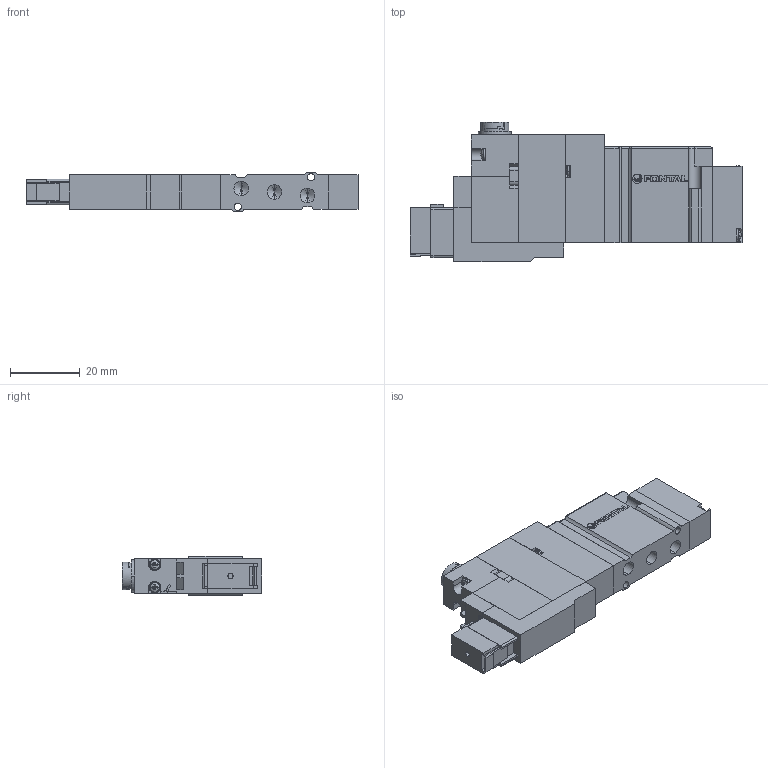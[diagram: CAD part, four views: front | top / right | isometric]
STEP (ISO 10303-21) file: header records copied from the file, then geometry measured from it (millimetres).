
FILE_DESCRIPTION (( 'STEP AP203' ), '1' );
FILE_NAME ('A05FS25#-#-#-E.STEP', '2016-02-04T01:53:06', ( 'Sam Lin' ), ( '' ), 'SwSTEP 2.0', 'SolidWorks 2013', '' );
FILE_SCHEMA (( 'CONFIG_CONTROL_DESIGN' ));
Length unit declared in the file: metre
Products named in the file (15): ISO 7045 - M1.6 x 10; A05FS25-6; mark-ADEX-A05RS; A05FS25-2; A05RS25-3; A05FS25-3; A05RS25-4; A05FS25-5; A05RS25-5; A05FS25#-#-#-E; A05RS25-6; DC24-A05F-1; DC24-A05G-3; A05RS25-1; DC24-A05F-2
Assembly tree (20 placements, depth 2):
  A05FS25#-#-#-E
    A05RS25-1
    ISO 7045 - M1.6 x 10  x6
    mark-ADEX-A05RS
    A05RS25-3
    A05RS25-4
    A05RS25-5
    A05RS25-6  x2
    DC24-A05F-1
    DC24-A05G-3
    DC24-A05F-2
    A05FS25-6
    A05FS25-2
    A05FS25-3
    A05FS25-5
Bounding box: 95.3 x 40.1 x 11.4 mm (x, y, z)
Volume: 24137.7 mm3; surface area: 14757.6 mm2
Topology: 28 solids, 28 shells, 690 faces, 1749 edges, 1107 vertices
Faces by surface type: plane 436, cylinder 134, cone 68, bspline 52
Entity records: 16425 total; most frequent: CARTESIAN_POINT 3284, ORIENTED_EDGE 2378, DIRECTION 2309, EDGE_CURVE 1189, VECTOR 869, LINE 869, VERTEX_POINT 779, AXIS2_PLACEMENT_3D 720
